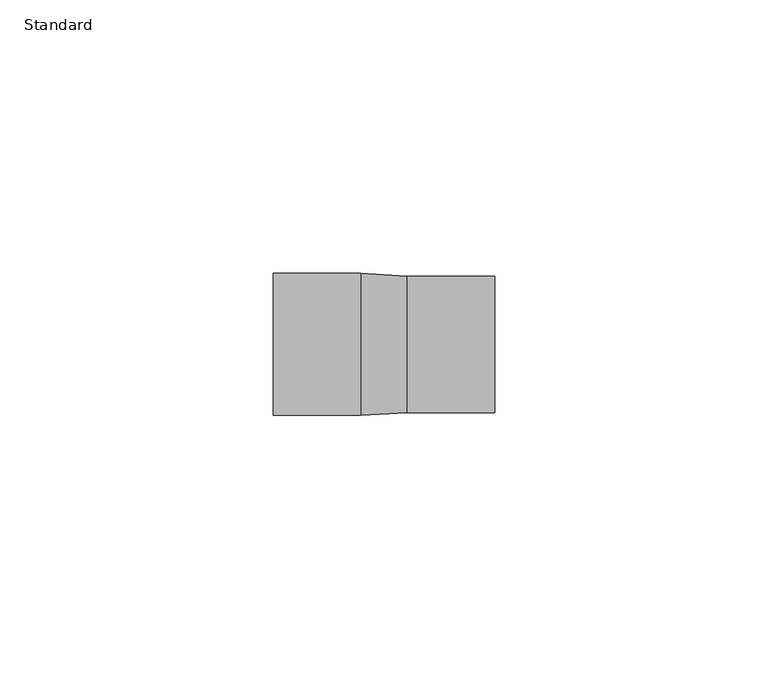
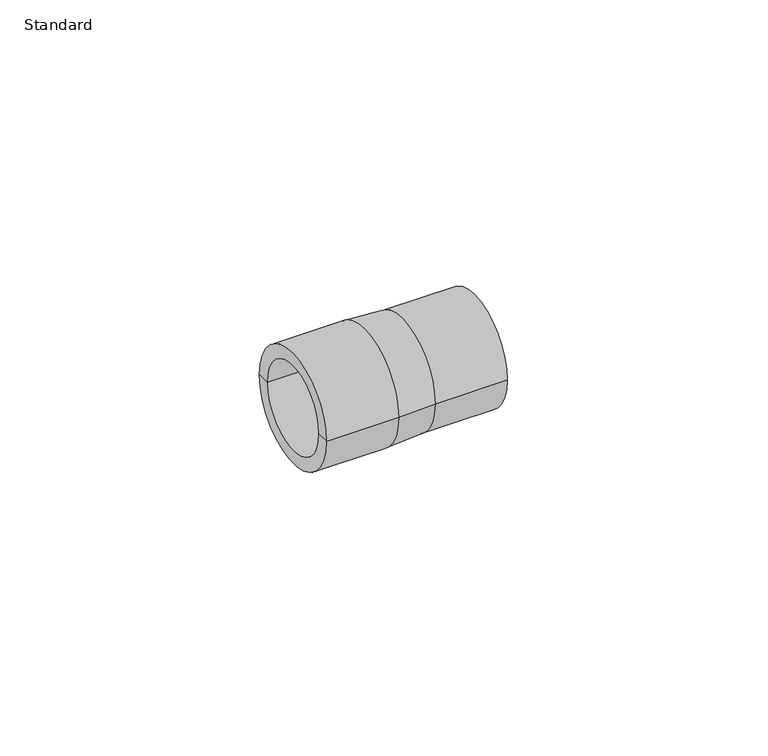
"""IFC4 building model written with IfcOpenShell, lengths in millimetres: pipe fitting geometry, Durapipe_PipeFitting_PVC_Reducers : Standard."""

from ifc_helpers import new_model, si_unit, frame, origin, place, context, project, spatial, polyline, circle_curve, source, transform, mapped, element, save
from ifc_brep_helpers import plane_surface, cylinder_surface, revolved_surface, advanced_brep


def standard_dfb33618(model_context):
    return source(origin(), model_context, "Body", "AdvancedBrep", [
        advanced_brep(
        [(-20.25, -13.0, 0.0), (-20.25, 13.0, 0.0), (-4.25, 13.0, 0.0), (-4.25, -13.0, 0.0), (-20.25, -10.0, 0.0), (-20.25, 10.0, 0.0), (20.25, -12.5, 0.0), (20.25, 12.5, 0.0), (20.25, 10.0, 0.0), (20.25, -10.0, 0.0), (4.25, -12.5, 0.0), (4.25, 12.5, 0.0), (-4.25, -10.0, 0.0), (-4.25, 10.0, 0.0), (-4.25, 0.0, 0.0), (4.25, -10.0, 0.0), (4.25, 10.0, 0.0), (4.25, 0.0, 0.0)],
        [
            (0, 1, circle_curve(frame((-20.25, 0.0, 0.0), z_axis=(1.0, 0.0, 0.0), x_axis=(0.0, 1.0, 0.0)), 13.0)),
            (1, 2),
            (2, 3, circle_curve(frame((-4.25, 0.0, 0.0), z_axis=(-1.0, 0.0, 0.0), x_axis=(0.0, 1.0, 0.0)), 13.0)),
            (3, 0),
            (1, 0, circle_curve(frame((-20.25, 0.0, 0.0), z_axis=(1.0, 0.0, 0.0), x_axis=(0.0, 1.0, 0.0)), 13.0)),
            (3, 2, circle_curve(frame((-4.25, 0.0, 0.0), z_axis=(-1.0, 0.0, 0.0), x_axis=(0.0, 1.0, 0.0)), 13.0)),
            (4, 5, circle_curve(frame((-20.25, 0.0, 0.0), z_axis=(1.0, 0.0, 0.0), x_axis=(0.0, 1.0, 0.0)), 10.0)),
            (5, 1),
            (0, 4),
            (5, 4, circle_curve(frame((-20.25, 0.0, 0.0), z_axis=(1.0, 0.0, 0.0), x_axis=(0.0, 1.0, 0.0)), 10.0)),
            (6, 7, circle_curve(frame((20.25, 0.0, 0.0), z_axis=(1.0, 0.0, 0.0), x_axis=(0.0, 1.0, 0.0)), 12.5)),
            (7, 8),
            (8, 9, circle_curve(frame((20.25, 0.0, 0.0), z_axis=(-1.0, 0.0, 0.0), x_axis=(0.0, 1.0, 0.0)), 10.0)),
            (9, 6),
            (7, 6, circle_curve(frame((20.25, 0.0, 0.0), z_axis=(1.0, 0.0, 0.0), x_axis=(0.0, 1.0, 0.0)), 12.5)),
            (9, 8, circle_curve(frame((20.25, 0.0, 0.0), z_axis=(-1.0, 0.0, 0.0), x_axis=(0.0, 1.0, 0.0)), 10.0)),
            (10, 11, circle_curve(frame((4.25, 0.0, 0.0), z_axis=(1.0, 0.0, 0.0), x_axis=(0.0, 1.0, 0.0)), 12.5)),
            (11, 7),
            (6, 10),
            (11, 10, circle_curve(frame((4.25, 0.0, 0.0), z_axis=(1.0, 0.0, 0.0), x_axis=(0.0, 1.0, 0.0)), 12.5)),
            (2, 11),
            (10, 3),
            (12, 13, circle_curve(frame((-4.25, 0.0, 0.0), z_axis=(1.0, 0.0, 0.0), x_axis=(0.0, 1.0, 0.0)), 10.0)),
            (13, 5),
            (4, 12),
            (13, 12, circle_curve(frame((-4.25, 0.0, 0.0), z_axis=(1.0, 0.0, 0.0), x_axis=(0.0, 1.0, 0.0)), 10.0)),
            (14, 13),
            (12, 14),
            (15, 16, circle_curve(frame((4.25, 0.0, 0.0), z_axis=(1.0, 0.0, 0.0), x_axis=(0.0, 1.0, 0.0)), 10.0)),
            (16, 17),
            (17, 15),
            (16, 15, circle_curve(frame((4.25, 0.0, 0.0), z_axis=(1.0, 0.0, 0.0), x_axis=(0.0, 1.0, 0.0)), 10.0)),
            (8, 16),
            (15, 9),
        ],
        [
            cylinder_surface(frame((-20.25, 0.0, 0.0), z_axis=(-1.0, 0.0, 0.0), x_axis=(0.0, 1.0, 0.0)), 13.0),
            plane_surface(frame((-20.25, 0.0, 0.0), z_axis=(-1.0, 0.0, 0.0), x_axis=(0.0, 1.0, 0.0))),
            plane_surface(frame((20.25, 0.0, 0.0), z_axis=(1.0, 0.0, 0.0), x_axis=(0.0, 1.0, 0.0))),
            cylinder_surface(frame((-20.25, 0.0, 0.0), z_axis=(-1.0, 0.0, 0.0), x_axis=(0.0, 1.0, 0.0)), 12.5),
            revolved_surface(polyline([(4.25, 12.5, 0.0), (-4.25, 13.0, 0.0)]), (-20.25, 0.0, 0.0), (-1.0, 0.0, 0.0)),
            revolved_surface(polyline([(-20.25, 10.0, 0.0), (-4.25, 10.0, 0.0)]), (-20.25, 0.0, 0.0), (-1.0, 0.0, 0.0)),
            plane_surface(frame((-4.25, 0.0, 0.0), z_axis=(-1.0, 0.0, 0.0), x_axis=(0.0, 1.0, 0.0))),
            plane_surface(frame((4.25, 0.0, 0.0), z_axis=(1.0, 0.0, 0.0), x_axis=(0.0, 1.0, 0.0))),
            revolved_surface(polyline([(4.25, 10.0, 0.0), (20.25, 10.0, 0.0)]), (-20.25, 0.0, 0.0), (-1.0, 0.0, 0.0)),
        ],
        [
            (0, [[1, 2, 3, 4]]),
            (0, [[5, -4, 6, -2]]),
            (1, [[7, 8, -1, 9]]),
            (1, [[10, -9, -5, -8]]),
            (2, [[11, 12, 13, 14]]),
            (2, [[15, -14, 16, -12]]),
            (3, [[17, 18, -11, 19]]),
            (3, [[20, -19, -15, -18]]),
            (4, [[-3, 21, -17, 22]]),
            (4, [[-6, -22, -20, -21]]),
            (5, [[23, 24, -7, 25]]),
            (5, [[26, -25, -10, -24]]),
            (6, [[27, -23, 28]]),
            (6, [[-28, -26, -27]]),
            (7, [[29, 30, 31]]),
            (7, [[32, -31, -30]]),
            (8, [[-13, 33, -29, 34]]),
            (8, [[-16, -34, -32, -33]]),
        ],
    ),
    ])


if __name__ == "__main__":
    model = new_model("IFC4")
    model_context = context("Model", 3, world=origin())
    ifc_project = project(units=[si_unit("LENGTHUNIT", "METRE", prefix="MILLI")], contexts=[model_context])
    site = spatial("IfcSite", under=ifc_project)
    building = spatial("IfcBuilding", under=site)
    placement = place(None, origin())
    standard_shape = standard_dfb33618(model_context)
    element("IfcPipeFitting", 1, ObjectType="Durapipe_PipeFitting_PVC_Reducers : Standard", at=placement, inside=building, context=model_context, shape_type="MappedRepresentation", body=[
        mapped(standard_shape, transform((0.0, 0.0, 0.0), x_axis=(1.0, 0.0, 0.0), y_axis=(0.0, 1.0, 0.0), z_axis=(0.0, 0.0, 1.0))),
    ])
    save(model, "model.ifc")
